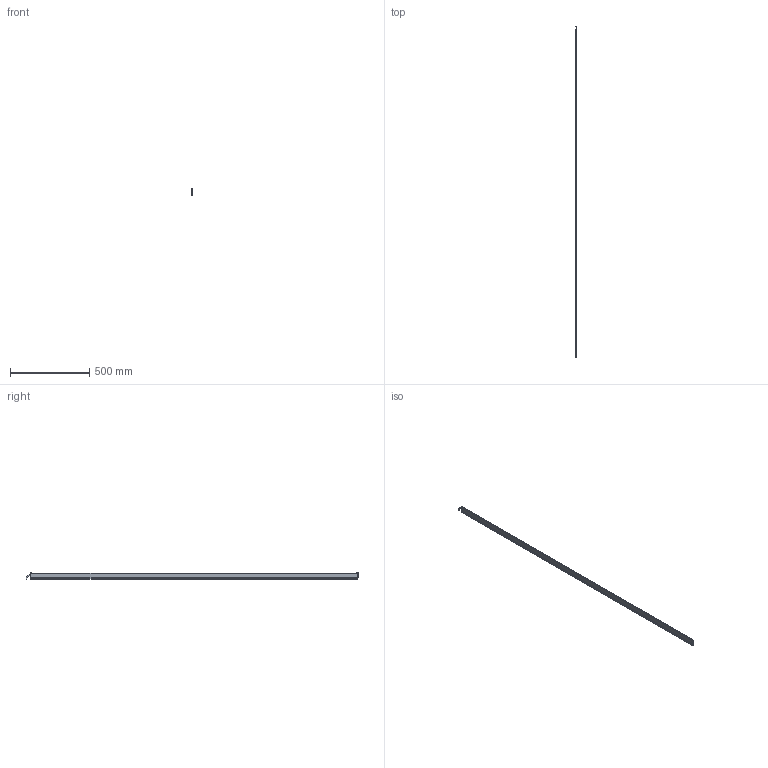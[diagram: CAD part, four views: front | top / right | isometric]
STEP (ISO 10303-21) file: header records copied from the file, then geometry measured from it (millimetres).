
FILE_DESCRIPTION (( 'STEP AP214' ), '1' );
FILE_NAME ('ILG-L-K1-2070mm.STEP', '2017-07-11T07:21:53', ( '' ), ( '' ), 'SwSTEP 2.0', 'SolidWorks 2016', '' );
FILE_SCHEMA (( 'AUTOMOTIVE_DESIGN' ));
Length unit declared in the file: millimetre
Products named in the file (1): ILG-L-K1-2070mm
Bounding box: 9 x 2098.25 x 40.71 mm (x, y, z)
Volume: 291899.4 mm3; surface area: 406634.3 mm2
Topology: 9 solids, 9 shells, 432 faces, 1114 edges, 702 vertices
Faces by surface type: plane 205, cylinder 153, cone 64, torus 10
Entity records: 18006 total; most frequent: CARTESIAN_POINT 2397, DIRECTION 2342, ORIENTED_EDGE 2212, EDGE_CURVE 1106, AXIS2_PLACEMENT_3D 855, VERTEX_POINT 702, VECTOR 632, LINE 632
